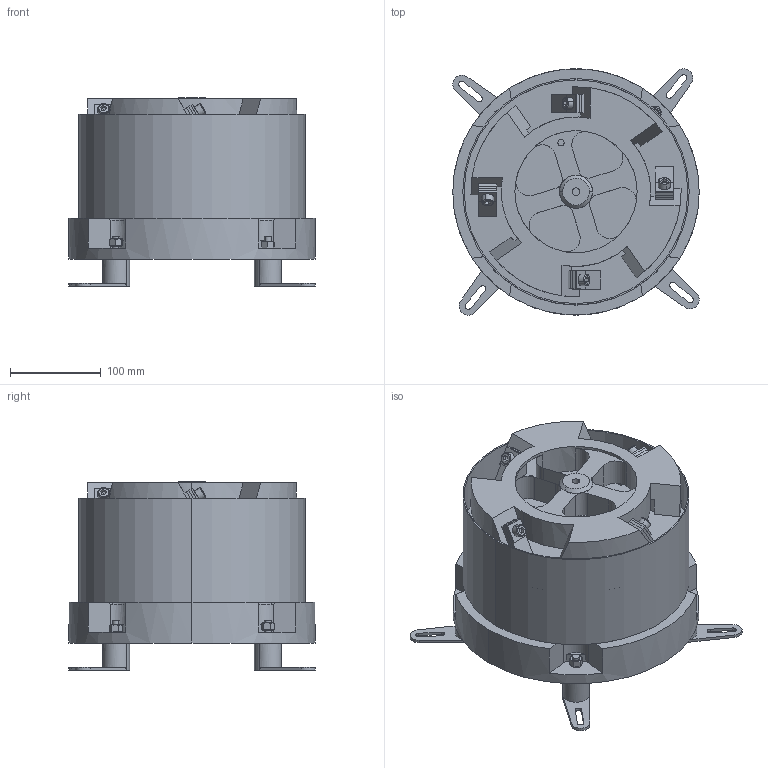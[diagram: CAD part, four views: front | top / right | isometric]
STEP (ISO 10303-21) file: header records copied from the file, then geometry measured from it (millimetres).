
FILE_DESCRIPTION (( 'STEP AP214' ), '1' );
FILE_NAME ('DA250 Ìú¸Ç_.STEP', '2022-04-21T04:35:50', ( '' ), ( '' ), 'SwSTEP 2.0', 'SolidWorks 2018', '' );
FILE_SCHEMA (( 'AUTOMOTIVE_DESIGN' ));
Length unit declared in the file: millimetre
Products named in the file (1): DA250 沺裔_
Bounding box: 272.04 x 272.04 x 208 mm (x, y, z)
Volume: 6877635.9 mm3; surface area: 568781.8 mm2
Topology: 23 solids, 29 shells, 538 faces, 1312 edges, 847 vertices
Faces by surface type: plane 293, cylinder 168, cone 60, torus 17
Entity records: 16654 total; most frequent: CARTESIAN_POINT 3515, DIRECTION 2752, ORIENTED_EDGE 2608, EDGE_CURVE 1304, AXIS2_PLACEMENT_3D 1038, VERTEX_POINT 847, VECTOR 676, LINE 676
